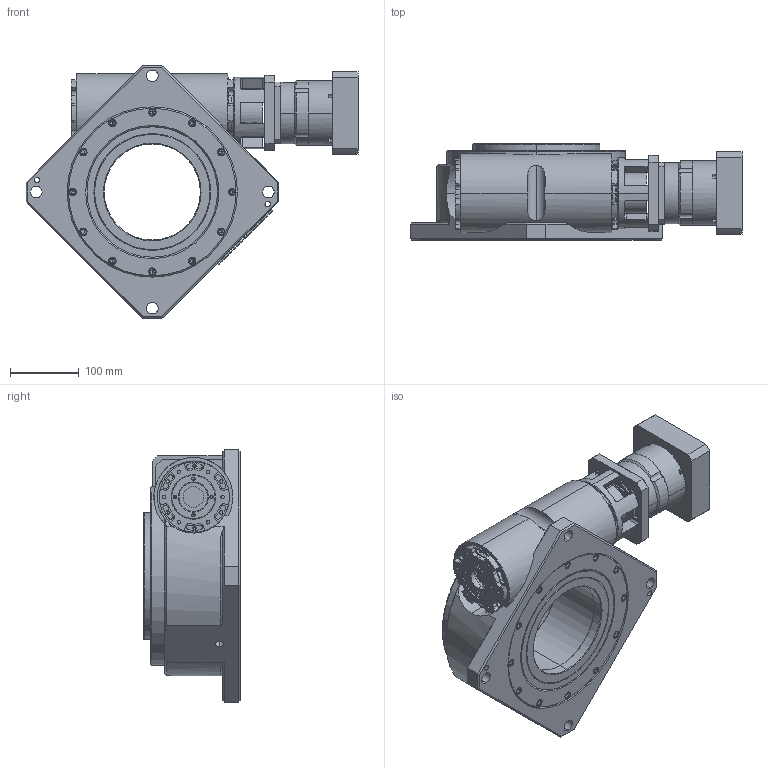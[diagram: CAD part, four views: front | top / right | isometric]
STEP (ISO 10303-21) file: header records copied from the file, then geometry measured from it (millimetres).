
FILE_DESCRIPTION (( 'STEP AP203' ), '1' );
FILE_NAME ('HTN115-20-22-PAG90-L1-22-110-145-M8 (4).STEP', '2024-08-06T08:40:53', ( 'Windows User' ), ( 'P R C' ), 'SwSTEP 2.0', 'SolidWorks 2016', '' );
FILE_SCHEMA (( 'CONFIG_CONTROL_DESIGN' ));
Length unit declared in the file: millimetre
Products named in the file (1): HTN115-20-22-PAG90-L1-22-110-145-M8 (4)
Bounding box: 483.35 x 140 x 367.7 mm (x, y, z)
Surface area: 672894.6 mm2 (no closed solid volume)
Topology: 0 solids, 115 shells, 1636 faces, 4965 edges, 3423 vertices
Faces by surface type: plane 845, cylinder 487, bspline 236, cone 64, torus 4
Entity records: 82562 total; most frequent: CARTESIAN_POINT 39887, ORIENTED_EDGE 8776, DIRECTION 7953, EDGE_CURVE 4945, VERTEX_POINT 3423, LINE 2735, VECTOR 2735, AXIS2_PLACEMENT_3D 2609
